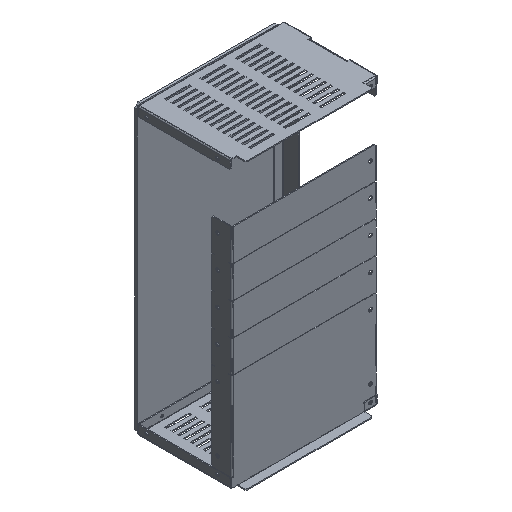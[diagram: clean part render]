
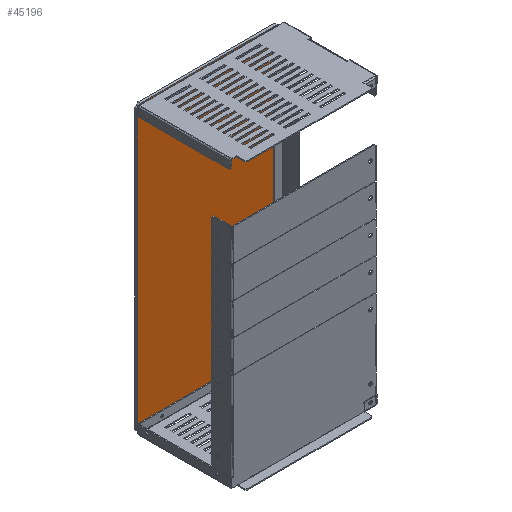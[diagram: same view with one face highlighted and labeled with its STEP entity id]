
A CAD part, isometric view. The second image highlights one B-rep face of the part: STEP entity #45196.
In plain terms, the highlighted planar face has unit normal (0, -1, 0) as drawn and (0, 0, 1) by its records, which use the part's own axes.
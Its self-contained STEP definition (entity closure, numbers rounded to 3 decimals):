
#43761=CARTESIAN_POINT(' ',(71.25,-214.5,0.));
#43762=VERTEX_POINT(' ',#43761);
#43776=CARTESIAN_POINT(' ',(74.,-214.5,0.));
#43781=DIRECTION(' ',(0.,-0.,1.));
#43786=DIRECTION(' ',(-1.,0.,0.));
#43791=AXIS2_PLACEMENT_3D(' ',#43776,#43781,#43786);
#43796=CIRCLE('',#43791,2.75);
#43801=CARTESIAN_POINT(' ',(76.75,-214.5,0.));
#43802=VERTEX_POINT(' ',#43801);
#43806=EDGE_CURVE(' ',#43762,#43802,#43796,.T.);
#44541=CARTESIAN_POINT(' ',(74.,-214.5,0.));
#44546=DIRECTION(' ',(0.,0.,1.));
#44551=DIRECTION(' ',(1.,0.,0.));
#44556=AXIS2_PLACEMENT_3D(' ',#44541,#44546,#44551);
#44561=CIRCLE('',#44556,2.75);
#44566=EDGE_CURVE(' ',#43802,#43762,#44561,.T.);
#44591=DIRECTION(' ',(-0.,0.,1.));
#44596=CARTESIAN_POINT(' ',(-111.,-221.5,0.));
#44601=DIRECTION(' ',(1.,0.,0.));
#44606=AXIS2_PLACEMENT_3D(' ',#44596,#44591,#44601);
#44611=PLANE('NONE',#44606);
#44616=CARTESIAN_POINT(' ',(-111.,216.5,0.));
#44621=DIRECTION(' ',(0.,-1.,0.));
#44626=VECTOR(' ',#44621,1.);
#44631=LINE('',#44616,#44626);
#44636=CARTESIAN_POINT(' ',(-111.,216.5,0.));
#44637=VERTEX_POINT(' ',#44636);
#44641=CARTESIAN_POINT(' ',(-111.,-216.5,0.));
#44642=VERTEX_POINT(' ',#44641);
#44646=EDGE_CURVE(' ',#44637,#44642,#44631,.T.);
#44651=ORIENTED_EDGE(' ',*,*,#44646,.T.);
#44656=CARTESIAN_POINT(' ',(-111.,-216.5,0.));
#44661=DIRECTION(' ',(0.707,-0.707,0.));
#44666=VECTOR(' ',#44661,1.);
#44671=LINE('',#44656,#44666);
#44676=CARTESIAN_POINT(' ',(-106.,-221.5,0.));
#44677=VERTEX_POINT(' ',#44676);
#44681=EDGE_CURVE(' ',#44642,#44677,#44671,.T.);
#44686=ORIENTED_EDGE(' ',*,*,#44681,.T.);
#44691=CARTESIAN_POINT(' ',(-106.,-221.5,0.));
#44696=DIRECTION(' ',(1.,0.,0.));
#44701=VECTOR(' ',#44696,1.);
#44706=LINE('',#44691,#44701);
#44711=CARTESIAN_POINT(' ',(106.,-221.5,0.));
#44712=VERTEX_POINT(' ',#44711);
#44716=EDGE_CURVE(' ',#44677,#44712,#44706,.T.);
#44721=ORIENTED_EDGE(' ',*,*,#44716,.T.);
#44726=CARTESIAN_POINT(' ',(106.,-221.5,0.));
#44731=DIRECTION(' ',(0.707,0.707,0.));
#44736=VECTOR(' ',#44731,1.);
#44741=LINE('',#44726,#44736);
#44746=CARTESIAN_POINT(' ',(111.,-216.5,0.));
#44747=VERTEX_POINT(' ',#44746);
#44751=EDGE_CURVE(' ',#44712,#44747,#44741,.T.);
#44756=ORIENTED_EDGE(' ',*,*,#44751,.T.);
#44761=CARTESIAN_POINT(' ',(111.,-216.5,0.));
#44766=DIRECTION(' ',(0.,1.,0.));
#44771=VECTOR(' ',#44766,1.);
#44776=LINE('',#44761,#44771);
#44781=CARTESIAN_POINT(' ',(111.,216.5,0.));
#44782=VERTEX_POINT(' ',#44781);
#44786=EDGE_CURVE(' ',#44747,#44782,#44776,.T.);
#44791=ORIENTED_EDGE(' ',*,*,#44786,.T.);
#44796=CARTESIAN_POINT(' ',(111.,216.5,0.));
#44801=DIRECTION(' ',(-0.707,0.707,0.));
#44806=VECTOR(' ',#44801,1.);
#44811=LINE('',#44796,#44806);
#44816=CARTESIAN_POINT(' ',(106.,221.5,0.));
#44817=VERTEX_POINT(' ',#44816);
#44821=EDGE_CURVE(' ',#44782,#44817,#44811,.T.);
#44826=ORIENTED_EDGE(' ',*,*,#44821,.T.);
#44831=CARTESIAN_POINT(' ',(106.,221.5,0.));
#44836=DIRECTION(' ',(-1.,0.,0.));
#44841=VECTOR(' ',#44836,1.);
#44846=LINE('',#44831,#44841);
#44851=CARTESIAN_POINT(' ',(-106.,221.5,0.));
#44852=VERTEX_POINT(' ',#44851);
#44856=EDGE_CURVE(' ',#44817,#44852,#44846,.T.);
#44861=ORIENTED_EDGE(' ',*,*,#44856,.T.);
#44866=CARTESIAN_POINT(' ',(-106.,221.5,0.));
#44871=DIRECTION(' ',(-0.707,-0.707,0.));
#44876=VECTOR(' ',#44871,1.);
#44881=LINE('',#44866,#44876);
#44886=EDGE_CURVE(' ',#44852,#44637,#44881,.T.);
#44891=ORIENTED_EDGE(' ',*,*,#44886,.T.);
#44896=EDGE_LOOP(' ',(#44651,#44686,#44721,#44756,#44791,#44826,#44861,#44891));
#44901=FACE_OUTER_BOUND(' ',#44896,.T.);
#44906=ORIENTED_EDGE(' ',*,*,#44566,.F.);
#44911=ORIENTED_EDGE(' ',*,*,#43806,.F.);
#44916=EDGE_LOOP(' ',(#44906,#44911));
#44921=FACE_BOUND(' ',#44916,.T.);
#44926=CARTESIAN_POINT(' ',(74.,214.5,0.));
#44931=DIRECTION(' ',(0.,0.,1.));
#44936=DIRECTION(' ',(1.,0.,0.));
#44941=AXIS2_PLACEMENT_3D(' ',#44926,#44931,#44936);
#44946=CIRCLE('',#44941,2.75);
#44951=CARTESIAN_POINT(' ',(76.75,214.5,0.));
#44952=VERTEX_POINT(' ',#44951);
#44956=CARTESIAN_POINT(' ',(71.25,214.5,0.));
#44957=VERTEX_POINT(' ',#44956);
#44961=EDGE_CURVE(' ',#44952,#44957,#44946,.T.);
#44966=ORIENTED_EDGE(' ',*,*,#44961,.F.);
#44971=CARTESIAN_POINT(' ',(74.,214.5,0.));
#44976=DIRECTION(' ',(0.,-0.,1.));
#44981=DIRECTION(' ',(-1.,0.,0.));
#44986=AXIS2_PLACEMENT_3D(' ',#44971,#44976,#44981);
#44991=CIRCLE('',#44986,2.75);
#44996=EDGE_CURVE(' ',#44957,#44952,#44991,.T.);
#45001=ORIENTED_EDGE(' ',*,*,#44996,.F.);
#45006=EDGE_LOOP(' ',(#44966,#45001));
#45011=FACE_BOUND(' ',#45006,.T.);
#45016=CARTESIAN_POINT(' ',(-74.,214.5,0.));
#45021=DIRECTION(' ',(0.,0.,1.));
#45026=DIRECTION(' ',(1.,0.,0.));
#45031=AXIS2_PLACEMENT_3D(' ',#45016,#45021,#45026);
#45036=CIRCLE('',#45031,2.75);
#45041=CARTESIAN_POINT(' ',(-71.25,214.5,0.));
#45042=VERTEX_POINT(' ',#45041);
#45046=CARTESIAN_POINT(' ',(-76.75,214.5,0.));
#45047=VERTEX_POINT(' ',#45046);
#45051=EDGE_CURVE(' ',#45042,#45047,#45036,.T.);
#45056=ORIENTED_EDGE(' ',*,*,#45051,.F.);
#45061=CARTESIAN_POINT(' ',(-74.,214.5,0.));
#45066=DIRECTION(' ',(0.,-0.,1.));
#45071=DIRECTION(' ',(-1.,0.,0.));
#45076=AXIS2_PLACEMENT_3D(' ',#45061,#45066,#45071);
#45081=CIRCLE('',#45076,2.75);
#45086=EDGE_CURVE(' ',#45047,#45042,#45081,.T.);
#45091=ORIENTED_EDGE(' ',*,*,#45086,.F.);
#45096=EDGE_LOOP(' ',(#45056,#45091));
#45101=FACE_BOUND(' ',#45096,.T.);
#45106=CARTESIAN_POINT(' ',(-74.,-214.5,0.));
#45111=DIRECTION(' ',(0.,0.,1.));
#45116=DIRECTION(' ',(1.,0.,0.));
#45121=AXIS2_PLACEMENT_3D(' ',#45106,#45111,#45116);
#45126=CIRCLE('',#45121,2.75);
#45131=CARTESIAN_POINT(' ',(-71.25,-214.5,0.));
#45132=VERTEX_POINT(' ',#45131);
#45136=CARTESIAN_POINT(' ',(-76.75,-214.5,0.));
#45137=VERTEX_POINT(' ',#45136);
#45141=EDGE_CURVE(' ',#45132,#45137,#45126,.T.);
#45146=ORIENTED_EDGE(' ',*,*,#45141,.F.);
#45151=CARTESIAN_POINT(' ',(-74.,-214.5,0.));
#45156=DIRECTION(' ',(0.,-0.,1.));
#45161=DIRECTION(' ',(-1.,0.,0.));
#45166=AXIS2_PLACEMENT_3D(' ',#45151,#45156,#45161);
#45171=CIRCLE('',#45166,2.75);
#45176=EDGE_CURVE(' ',#45137,#45132,#45171,.T.);
#45181=ORIENTED_EDGE(' ',*,*,#45176,.F.);
#45186=EDGE_LOOP(' ',(#45146,#45181));
#45191=FACE_BOUND(' ',#45186,.T.);
#45196=ADVANCED_FACE('NONE',(#44901,#44921,#45011,#45101,#45191),#44611,.T.);
